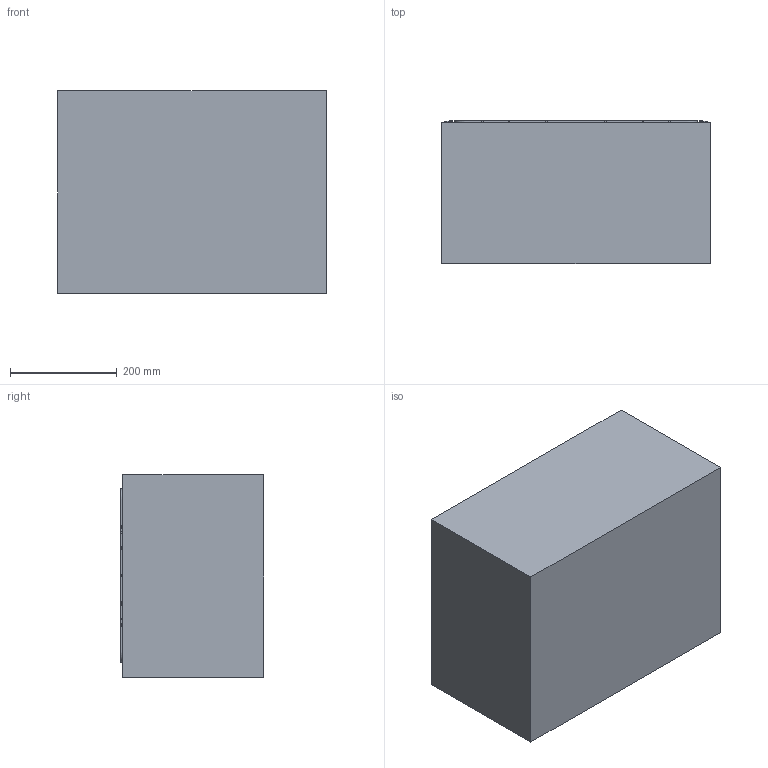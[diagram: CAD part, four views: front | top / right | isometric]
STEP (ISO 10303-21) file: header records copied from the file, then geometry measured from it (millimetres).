
FILE_DESCRIPTION (( 'STEP AP203' ), '1' );
FILE_NAME ('bottom inside type 5500.STEP', '2015-02-04T11:02:34', ( 'Master' ), ( '' ), 'SwSTEP 2.0', 'SolidWorks 2015', '' );
FILE_SCHEMA (( 'CONFIG_CONTROL_DESIGN' ));
Length unit declared in the file: millimetre
Products named in the file (1): bottom inside type 5500
Bounding box: 503.03 x 268.4 x 378.94 mm (x, y, z)
Volume: 17990760.1 mm3; surface area: 1209880.9 mm2
Topology: 1 solids, 1 shells, 622 faces, 1654 edges, 1059 vertices
Faces by surface type: plane 376, bspline 118, cylinder 86, sphere 22, cone 20
Entity records: 25865 total; most frequent: CARTESIAN_POINT 11564, ORIENTED_EDGE 3236, DIRECTION 2436, EDGE_CURVE 1618, VECTOR 1190, LINE 1190, VERTEX_POINT 1043, EDGE_LOOP 667
